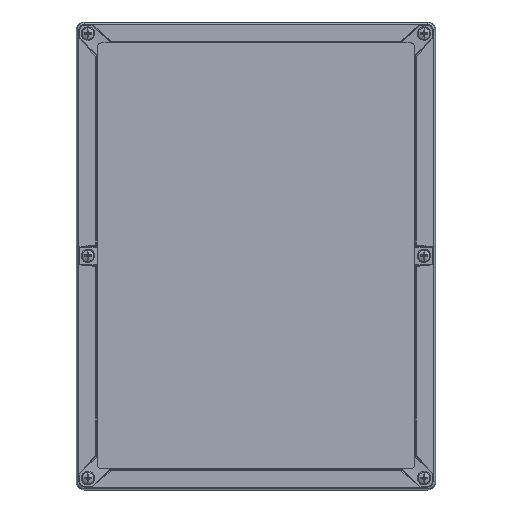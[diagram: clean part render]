
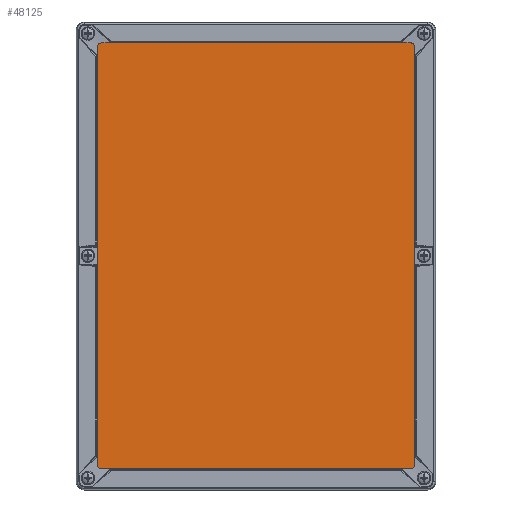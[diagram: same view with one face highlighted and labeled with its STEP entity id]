
A CAD part, top view. The second image highlights one B-rep face of the part: STEP entity #48125.
In plain terms, the highlighted planar face has unit normal (0, 0, 1).
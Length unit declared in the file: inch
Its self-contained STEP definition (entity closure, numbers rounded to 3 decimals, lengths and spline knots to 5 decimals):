
#257 = CIRCLE ( 'NONE', #39103, 0.11811 ) ;
#397 = DIRECTION ( 'NONE',  ( 1., 0., 0. ) ) ;
#463 = VERTEX_POINT ( 'NONE', #74403 ) ;
#825 = FACE_OUTER_BOUND ( 'NONE', #79673, .T. ) ;
#1687 = DIRECTION ( 'NONE',  ( 0., 0., 1. ) ) ;
#2114 = CARTESIAN_POINT ( 'NONE',  ( -3.91732, -5.29528, 1.12992 ) ) ;
#2557 = DIRECTION ( 'NONE',  ( 0., 0., 1. ) ) ;
#4438 = CARTESIAN_POINT ( 'NONE',  ( -3.91732, -5.41339, 1.12992 ) ) ;
#4641 = AXIS2_PLACEMENT_3D ( 'NONE', #83831, #11247, #24255 ) ;
#6086 = CIRCLE ( 'NONE', #4641, 0.11811 ) ;
#9414 = VECTOR ( 'NONE', #18188, 39.37008 ) ;
#11247 = DIRECTION ( 'NONE',  ( 0., 0., 1. ) ) ;
#11873 = VERTEX_POINT ( 'NONE', #16311 ) ;
#12269 = ORIENTED_EDGE ( 'NONE', *, *, #12404, .T. ) ;
#12324 = VERTEX_POINT ( 'NONE', #36186 ) ;
#12404 = EDGE_CURVE ( 'NONE', #23641, #463, #84417, .T. ) ;
#15007 = CIRCLE ( 'NONE', #38587, 0.11811 ) ;
#16311 = CARTESIAN_POINT ( 'NONE',  ( 3.91732, 5.41339, 1.12992 ) ) ;
#16328 = ORIENTED_EDGE ( 'NONE', *, *, #67164, .T. ) ;
#18055 = VERTEX_POINT ( 'NONE', #28194 ) ;
#18188 = DIRECTION ( 'NONE',  ( 0., 1., 0. ) ) ;
#22620 = EDGE_CURVE ( 'NONE', #29644, #12324, #6086, .T. ) ;
#23641 = VERTEX_POINT ( 'NONE', #34770 ) ;
#23956 = LINE ( 'NONE', #77045, #73161 ) ;
#24255 = DIRECTION ( 'NONE',  ( 1., 0., 0. ) ) ;
#25599 = ORIENTED_EDGE ( 'NONE', *, *, #55912, .T. ) ;
#26260 = VERTEX_POINT ( 'NONE', #29438 ) ;
#26440 = ORIENTED_EDGE ( 'NONE', *, *, #28738, .T. ) ;
#27561 = EDGE_CURVE ( 'NONE', #463, #30620, #28556, .T. ) ;
#28194 = CARTESIAN_POINT ( 'NONE',  ( -4.03543, -5.29528, 1.12992 ) ) ;
#28556 = CIRCLE ( 'NONE', #79977, 0.11811 ) ;
#28738 = EDGE_CURVE ( 'NONE', #11873, #29644, #23956, .T. ) ;
#29438 = CARTESIAN_POINT ( 'NONE',  ( 4.03543, 5.29528, 1.12992 ) ) ;
#29644 = VERTEX_POINT ( 'NONE', #38753 ) ;
#30620 = VERTEX_POINT ( 'NONE', #85736 ) ;
#32071 = CARTESIAN_POINT ( 'NONE',  ( 4.03543, -5.29528, 1.12992 ) ) ;
#34770 = CARTESIAN_POINT ( 'NONE',  ( -3.91732, -5.41339, 1.12992 ) ) ;
#36186 = CARTESIAN_POINT ( 'NONE',  ( -4.03543, 5.29528, 1.12992 ) ) ;
#36618 = CARTESIAN_POINT ( 'NONE',  ( -4.03543, 5.29528, 1.12992 ) ) ;
#36812 = VECTOR ( 'NONE', #49208, 39.37008 ) ;
#36848 = DIRECTION ( 'NONE',  ( 1., 0., 0. ) ) ;
#38587 = AXIS2_PLACEMENT_3D ( 'NONE', #82958, #2557, #36848 ) ;
#38603 = LINE ( 'NONE', #32071, #9414 ) ;
#38753 = CARTESIAN_POINT ( 'NONE',  ( -3.91732, 5.41339, 1.12992 ) ) ;
#39103 = AXIS2_PLACEMENT_3D ( 'NONE', #84236, #76030, #77313 ) ;
#41451 = LINE ( 'NONE', #36618, #36812 ) ;
#41728 = DIRECTION ( 'NONE',  ( 1., 0., 0. ) ) ;
#44416 = ORIENTED_EDGE ( 'NONE', *, *, #22620, .T. ) ;
#48125 = ADVANCED_FACE ( 'NONE', ( #825 ), #59967, .T. ) ;
#49208 = DIRECTION ( 'NONE',  ( 0., -1., 0. ) ) ;
#49468 = AXIS2_PLACEMENT_3D ( 'NONE', #2114, #1687, #397 ) ;
#49841 = ORIENTED_EDGE ( 'NONE', *, *, #58790, .T. ) ;
#52253 = ORIENTED_EDGE ( 'NONE', *, *, #27561, .T. ) ;
#53471 = CARTESIAN_POINT ( 'NONE',  ( 3.91732, -5.29528, 1.12992 ) ) ;
#55195 = DIRECTION ( 'NONE',  ( 0., 0., 1. ) ) ;
#55912 = EDGE_CURVE ( 'NONE', #12324, #18055, #41451, .T. ) ;
#57024 = DIRECTION ( 'NONE',  ( -1., 0., 0. ) ) ;
#58790 = EDGE_CURVE ( 'NONE', #30620, #26260, #38603, .T. ) ;
#59967 = PLANE ( 'NONE',  #49468 ) ;
#67164 = EDGE_CURVE ( 'NONE', #18055, #23641, #257, .T. ) ;
#72186 = ORIENTED_EDGE ( 'NONE', *, *, #82599, .T. ) ;
#73161 = VECTOR ( 'NONE', #57024, 39.37008 ) ;
#74403 = CARTESIAN_POINT ( 'NONE',  ( 3.91732, -5.41339, 1.12992 ) ) ;
#76030 = DIRECTION ( 'NONE',  ( 0., 0., 1. ) ) ;
#77045 = CARTESIAN_POINT ( 'NONE',  ( 3.91732, 5.41339, 1.12992 ) ) ;
#77313 = DIRECTION ( 'NONE',  ( 1., 0., 0. ) ) ;
#79673 = EDGE_LOOP ( 'NONE', ( #16328, #12269, #52253, #49841, #72186, #26440, #44416, #25599 ) ) ;
#79977 = AXIS2_PLACEMENT_3D ( 'NONE', #53471, #55195, #41728 ) ;
#82283 = VECTOR ( 'NONE', #83973, 39.37008 ) ;
#82599 = EDGE_CURVE ( 'NONE', #26260, #11873, #15007, .T. ) ;
#82958 = CARTESIAN_POINT ( 'NONE',  ( 3.91732, 5.29528, 1.12992 ) ) ;
#83831 = CARTESIAN_POINT ( 'NONE',  ( -3.91732, 5.29528, 1.12992 ) ) ;
#83973 = DIRECTION ( 'NONE',  ( 1., 0., 0. ) ) ;
#84236 = CARTESIAN_POINT ( 'NONE',  ( -3.91732, -5.29528, 1.12992 ) ) ;
#84417 = LINE ( 'NONE', #4438, #82283 ) ;
#85736 = CARTESIAN_POINT ( 'NONE',  ( 4.03543, -5.29528, 1.12992 ) ) ;
